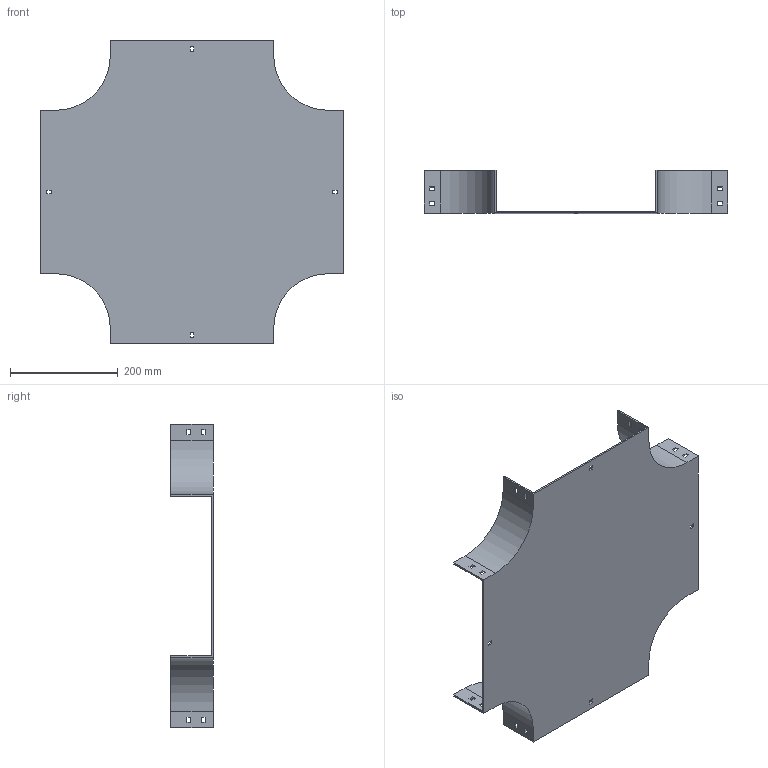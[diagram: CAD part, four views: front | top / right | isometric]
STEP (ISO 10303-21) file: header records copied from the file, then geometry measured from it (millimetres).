
FILE_DESCRIPTION (( 'STEP AP214' ), '1' );
FILE_NAME ('17F1C300.step', '2025-02-21T13:06:17', ( '' ), ( '' ), 'SwSTEP 2.0', 'SolidWorks 2023', '' );
FILE_SCHEMA (( 'AUTOMOTIVE_DESIGN' ));
Length unit declared in the file: millimetre
Products named in the file (1): 17F1C300
Bounding box: 564 x 79 x 564 mm (x, y, z)
Volume: 1134400 mm3; surface area: 659975.7 mm2
Topology: 1 solids, 1 shells, 114 faces, 336 edges, 224 vertices
Faces by surface type: plane 106, cylinder 8
Entity records: 3839 total; most frequent: CARTESIAN_POINT 675, ORIENTED_EDGE 672, DIRECTION 582, EDGE_CURVE 336, LINE 320, VECTOR 320, VERTEX_POINT 224, EDGE_LOOP 154
